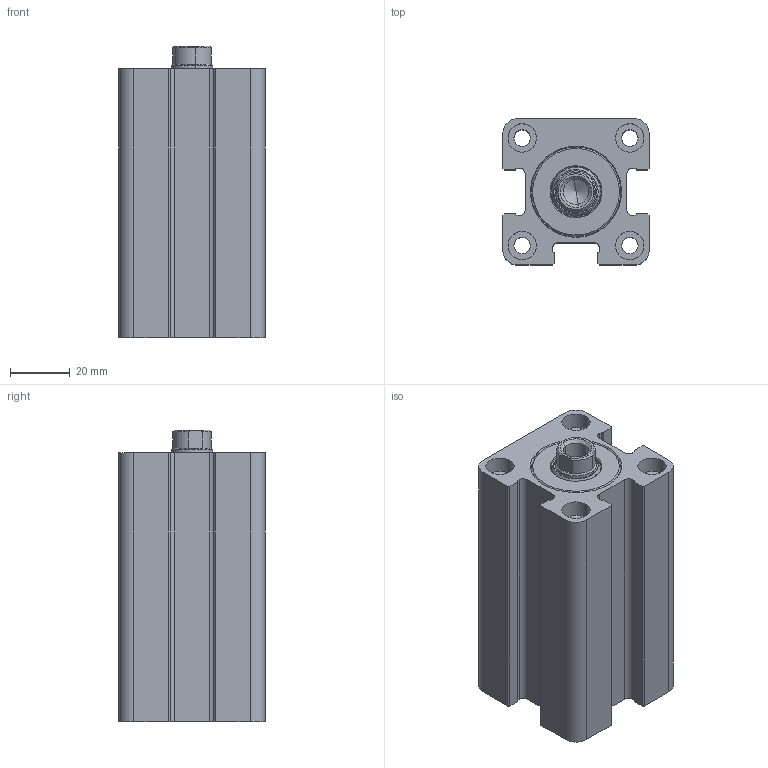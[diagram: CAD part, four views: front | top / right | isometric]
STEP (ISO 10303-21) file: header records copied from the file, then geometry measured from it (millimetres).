
FILE_DESCRIPTION (( 'STEP AP214' ), '1' );
FILE_NAME ('KSWC_03_M_25_14_45_WEB.STEP', '2021-08-15T14:38:19', ( '' ), ( '' ), 'SwSTEP 2.0', 'SolidWorks 2021', '' );
FILE_SCHEMA (( 'AUTOMOTIVE_DESIGN' ));
Length unit declared in the file: millimetre
Products named in the file (6): KSWC_03_25_GOVDE_WEB; 14_K_MIL_WEB; KSWC_03_25_14_ON_KAPAK; K06-14X18_6X2_3X3_3 (K06-014); KSWC_03_25_14_烰_KAPAK; KSWC_03_M_25_14_45_WEB
Assembly tree (5 placements, depth 3):
  KSWC_03_M_25_14_45_WEB
    KSWC_03_25_GOVDE_WEB
    KSWC_03_25_14_ON_KAPAK
      KSWC_03_25_14_烰_KAPAK
      K06-14X18_6X2_3X3_3 (K06-014)
    14_K_MIL_WEB
Bounding box: 49 x 49 x 97.5 mm (x, y, z)
Volume: 154810.3 mm3; surface area: 45191.5 mm2
Topology: 4 solids, 4 shells, 392 faces, 972 edges, 623 vertices
Faces by surface type: plane 143, bspline 121, cylinder 83, cone 45
Entity records: 16466 total; most frequent: CARTESIAN_POINT 7546, ORIENTED_EDGE 1940, DIRECTION 1473, EDGE_CURVE 970, VERTEX_POINT 623, VECTOR 505, LINE 505, AXIS2_PLACEMENT_3D 484
